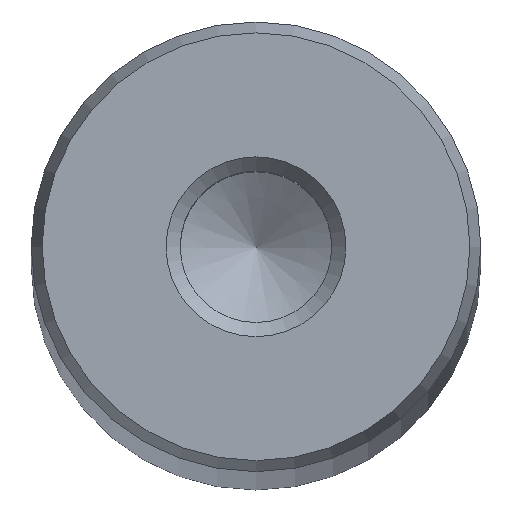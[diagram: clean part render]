
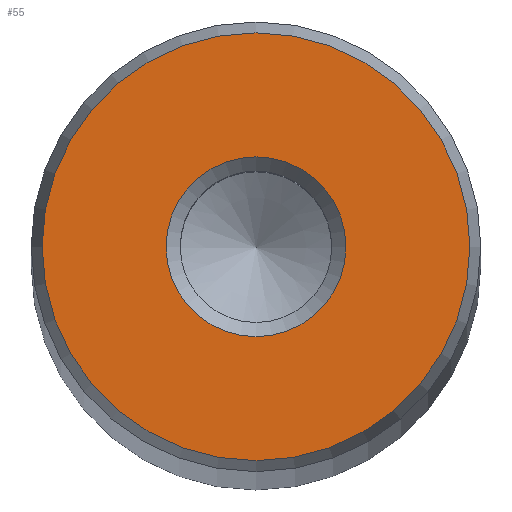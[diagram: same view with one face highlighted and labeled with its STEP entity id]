
A CAD part, top view. The second image highlights one B-rep face of the part: STEP entity #55.
In plain terms, the highlighted planar face has unit normal (0, 0, 1).
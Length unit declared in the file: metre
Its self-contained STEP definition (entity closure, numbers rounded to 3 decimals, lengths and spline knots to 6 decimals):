
#55 = ADVANCED_FACE( '', ( #116, #117 ), #118, .T. );
#116 = FACE_OUTER_BOUND( '', #175, .T. );
#117 = FACE_BOUND( '', #176, .T. );
#118 = PLANE( '', #177 );
#175 = EDGE_LOOP( '', ( #246 ) );
#176 = EDGE_LOOP( '', ( #247 ) );
#177 = AXIS2_PLACEMENT_3D( '', #248, #249, #250 );
#246 = ORIENTED_EDGE( '', *, *, #281, .T. );
#247 = ORIENTED_EDGE( '', *, *, #290, .T. );
#248 = CARTESIAN_POINT( '', ( 0., 0., 0.705 ) );
#249 = DIRECTION( '', ( 0., 0., 1. ) );
#250 = DIRECTION( '', ( 1., 0., 0. ) );
#281 = EDGE_CURVE( '', #313, #313, #314, .T. );
#290 = EDGE_CURVE( '', #326, #326, #327, .T. );
#313 = VERTEX_POINT( '', #350 );
#314 = CIRCLE( '', #351, 0.014272 );
#326 = VERTEX_POINT( '', #363 );
#327 = CIRCLE( '', #364, 0.006 );
#350 = CARTESIAN_POINT( '', ( 0.014272, 0., 0.705 ) );
#351 = AXIS2_PLACEMENT_3D( '', #388, #389, #390 );
#363 = CARTESIAN_POINT( '', ( 0.006, 0., 0.705 ) );
#364 = AXIS2_PLACEMENT_3D( '', #400, #401, #402 );
#388 = CARTESIAN_POINT( '', ( 0., 0., 0.705 ) );
#389 = DIRECTION( '', ( 0., 0., 1. ) );
#390 = DIRECTION( '', ( 1., 0., 0. ) );
#400 = CARTESIAN_POINT( '', ( 0., 0., 0.705 ) );
#401 = DIRECTION( '', ( 0., 0., -1. ) );
#402 = DIRECTION( '', ( 1., 0., 0. ) );
